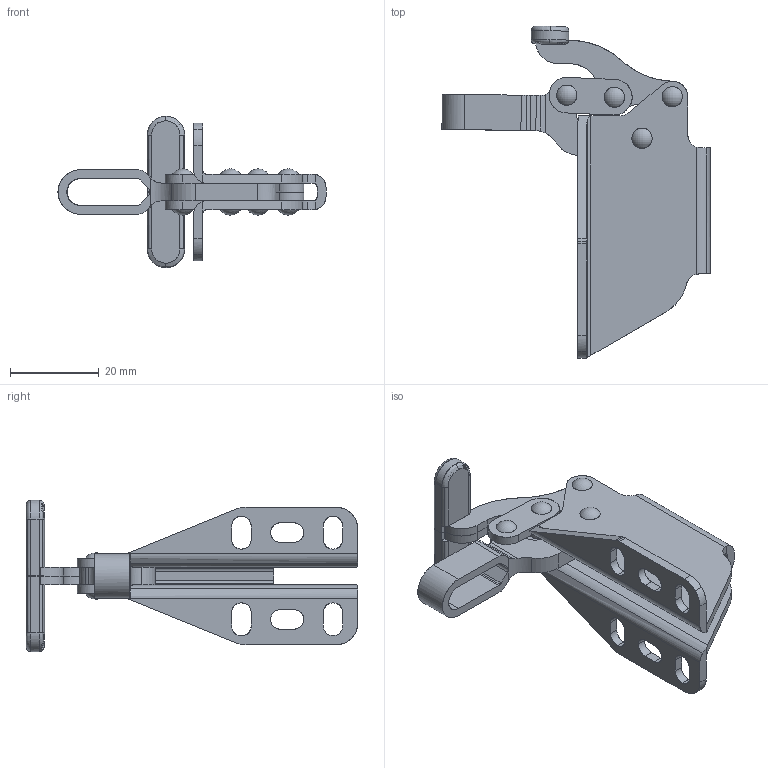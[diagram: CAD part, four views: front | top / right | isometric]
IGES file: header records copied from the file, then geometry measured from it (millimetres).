
Start section: Comment
Global section: file name: 13005sm.igs; native system:  By Spatial Corp.; preprocessor: XPlus PS/IGES 3.0; author: Author; organization: Title; date: 20050216.173221; units: inch
Bounding box: 60.28 x 74.6 x 34 mm (x, y, z)
Surface area: 14092.1 mm2 (no closed solid volume)
Topology: 0 solids, 0 shells, 302 faces, 1598 edges, 1598 vertices
Faces by surface type: revolution 192, extrusion 110
